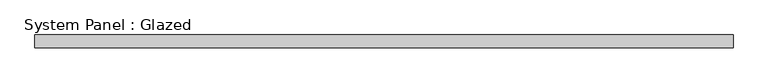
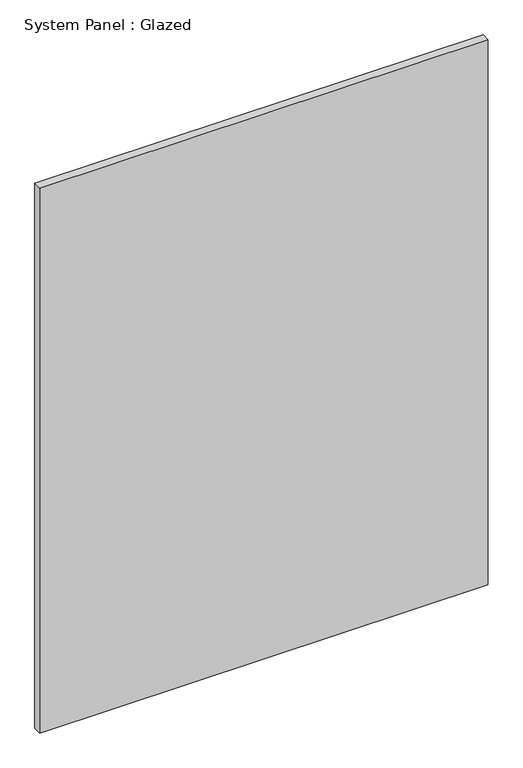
"""IFC4 building model written with IfcOpenShell, lengths in millimetres: plate geometry, System Panel : Glazed."""

from ifc_helpers import new_model, si_unit, origin, origin_with_axes, place, context, project, spatial, polyline, outline, extrude, source, transform, mapped, element, save


def system_panel_glazed_f8e5df00(model_context):
    return source(origin(), model_context, "Body", "SweptSolid", [
        extrude(outline(polyline([(694.9016667, -12.7), (-694.9016667, -12.7), (-694.9016667, 12.7), (694.9016667, 12.7), (694.9016667, -12.7)])), origin_with_axes(), (0.0, 0.0, 1.0), 1784.35),
    ])


if __name__ == "__main__":
    model = new_model("IFC4")
    model_context = context("Model", 3, world=origin())
    ifc_project = project(units=[si_unit("LENGTHUNIT", "METRE", prefix="MILLI")], contexts=[model_context])
    site = spatial("IfcSite", under=ifc_project)
    building = spatial("IfcBuilding", under=site)
    placement = place(None, origin())
    system_panel_glazed_shape = system_panel_glazed_f8e5df00(model_context)
    element("IfcPlate", 1, ObjectType="System Panel : Glazed", at=placement, inside=building, context=model_context, shape_type="MappedRepresentation", body=[
        mapped(system_panel_glazed_shape, transform((0.0, 0.0, 0.0), x_axis=(1.0, 0.0, 0.0), y_axis=(0.0, 1.0, 0.0), z_axis=(0.0, 0.0, 1.0))),
    ])
    save(model, "model.ifc")
